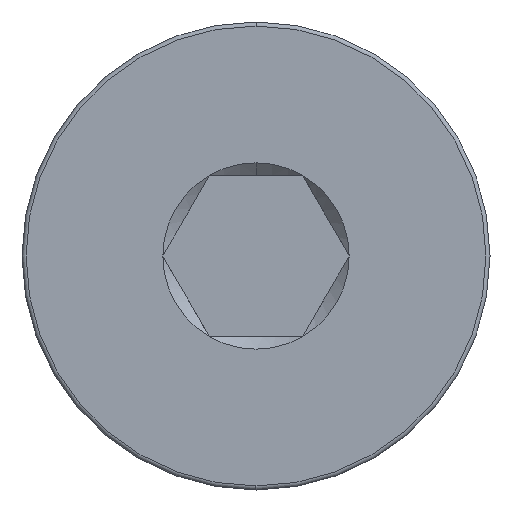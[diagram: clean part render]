
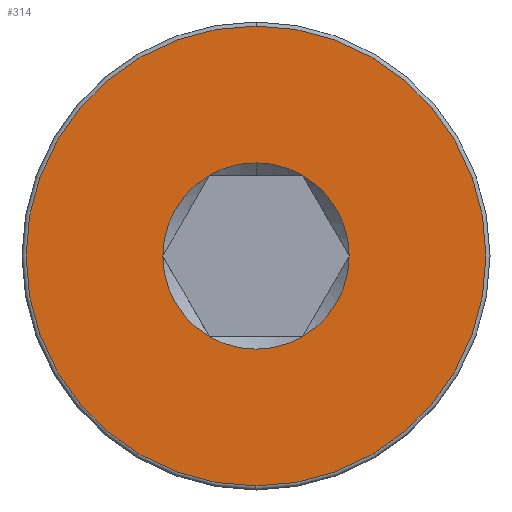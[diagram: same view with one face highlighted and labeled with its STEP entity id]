
A CAD part, left-side view. The second image highlights one B-rep face of the part: STEP entity #314.
In plain terms, the highlighted planar face has unit normal (-1, 0, 0).
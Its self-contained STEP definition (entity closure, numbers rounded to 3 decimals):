
#9 = CARTESIAN_POINT ( 'NONE',  ( 0., 0., 0. ) ) ;
#13 = EDGE_CURVE ( 'NONE', #673, #237, #518, .T. ) ;
#17 = EDGE_CURVE ( 'NONE', #139, #26, #620, .T. ) ;
#26 = VERTEX_POINT ( 'NONE', #575 ) ;
#30 = EDGE_CURVE ( 'NONE', #26, #139, #729, .T. ) ;
#31 = AXIS2_PLACEMENT_3D ( 'NONE', #508, #761, #562 ) ;
#43 = VERTEX_POINT ( 'NONE', #121 ) ;
#68 = CIRCLE ( 'NONE', #160, 1.155 ) ;
#70 = CIRCLE ( 'NONE', #94, 1.155 ) ;
#77 = ORIENTED_EDGE ( 'NONE', *, *, #13, .T. ) ;
#85 = ORIENTED_EDGE ( 'NONE', *, *, #713, .T. ) ;
#94 = AXIS2_PLACEMENT_3D ( 'NONE', #146, #613, #141 ) ;
#113 = AXIS2_PLACEMENT_3D ( 'NONE', #548, #129, #603 ) ;
#119 = VERTEX_POINT ( 'NONE', #471 ) ;
#121 = CARTESIAN_POINT ( 'NONE',  ( 0., 1.155, 0. ) ) ;
#129 = DIRECTION ( 'NONE',  ( 1., 0., 0. ) ) ;
#131 = ORIENTED_EDGE ( 'NONE', *, *, #672, .T. ) ;
#132 = CARTESIAN_POINT ( 'NONE',  ( 0., -1.155, 0. ) ) ;
#139 = VERTEX_POINT ( 'NONE', #706 ) ;
#141 = DIRECTION ( 'NONE',  ( 0., 0., -1. ) ) ;
#146 = CARTESIAN_POINT ( 'NONE',  ( 0., 0., 0. ) ) ;
#160 = AXIS2_PLACEMENT_3D ( 'NONE', #698, #554, #693 ) ;
#166 = ORIENTED_EDGE ( 'NONE', *, *, #347, .T. ) ;
#209 = EDGE_LOOP ( 'NONE', ( #756, #166, #619, #131, #77, #587, #85 ) ) ;
#213 = AXIS2_PLACEMENT_3D ( 'NONE', #9, #254, #667 ) ;
#218 = AXIS2_PLACEMENT_3D ( 'NONE', #629, #338, #222 ) ;
#222 = DIRECTION ( 'NONE',  ( 0., 0., -1. ) ) ;
#225 = VERTEX_POINT ( 'NONE', #375 ) ;
#237 = VERTEX_POINT ( 'NONE', #313 ) ;
#241 = CARTESIAN_POINT ( 'NONE',  ( 0., 0., 1.155 ) ) ;
#250 = AXIS2_PLACEMENT_3D ( 'NONE', #731, #310, #256 ) ;
#254 = DIRECTION ( 'NONE',  ( 1., 0., 0. ) ) ;
#256 = DIRECTION ( 'NONE',  ( 0., 0., -1. ) ) ;
#260 = DIRECTION ( 'NONE',  ( -1., 0., 0. ) ) ;
#262 = CIRCLE ( 'NONE', #113, 1.155 ) ;
#281 = DIRECTION ( 'NONE',  ( 0., 0., 1. ) ) ;
#285 = ORIENTED_EDGE ( 'NONE', *, *, #30, .T. ) ;
#310 = DIRECTION ( 'NONE',  ( 1., 0., 0. ) ) ;
#313 = CARTESIAN_POINT ( 'NONE',  ( 0., -0.577, -1. ) ) ;
#314 = ADVANCED_FACE ( 'NONE', ( #489, #483 ), #728, .T. ) ;
#338 = DIRECTION ( 'NONE',  ( 1., 0., 0. ) ) ;
#347 = EDGE_CURVE ( 'NONE', #119, #512, #68, .T. ) ;
#366 = CIRCLE ( 'NONE', #213, 1.155 ) ;
#375 = CARTESIAN_POINT ( 'NONE',  ( 0., 0.577, -1. ) ) ;
#379 = CARTESIAN_POINT ( 'NONE',  ( 0., 0., 0. ) ) ;
#401 = DIRECTION ( 'NONE',  ( -1., 0., 0. ) ) ;
#407 = DIRECTION ( 'NONE',  ( 0., 0., 1. ) ) ;
#437 = CIRCLE ( 'NONE', #250, 1.155 ) ;
#455 = CARTESIAN_POINT ( 'NONE',  ( 0., 0., 0. ) ) ;
#460 = EDGE_CURVE ( 'NONE', #43, #119, #542, .T. ) ;
#464 = VERTEX_POINT ( 'NONE', #752 ) ;
#471 = CARTESIAN_POINT ( 'NONE',  ( 0., 0.577, 1. ) ) ;
#483 = FACE_BOUND ( 'NONE', #209, .T. ) ;
#489 = FACE_OUTER_BOUND ( 'NONE', #676, .T. ) ;
#508 = CARTESIAN_POINT ( 'NONE',  ( 0., 0., 0. ) ) ;
#512 = VERTEX_POINT ( 'NONE', #241 ) ;
#518 = CIRCLE ( 'NONE', #218, 1.155 ) ;
#542 = CIRCLE ( 'NONE', #31, 1.155 ) ;
#548 = CARTESIAN_POINT ( 'NONE',  ( 0., 0., 0. ) ) ;
#554 = DIRECTION ( 'NONE',  ( 1., 0., 0. ) ) ;
#562 = DIRECTION ( 'NONE',  ( 0., 0., -1. ) ) ;
#575 = CARTESIAN_POINT ( 'NONE',  ( 0., 0., 2.85 ) ) ;
#587 = ORIENTED_EDGE ( 'NONE', *, *, #691, .T. ) ;
#603 = DIRECTION ( 'NONE',  ( 0., 0., -1. ) ) ;
#613 = DIRECTION ( 'NONE',  ( 1., 0., 0. ) ) ;
#619 = ORIENTED_EDGE ( 'NONE', *, *, #779, .T. ) ;
#620 = CIRCLE ( 'NONE', #654, 2.85 ) ;
#624 = ORIENTED_EDGE ( 'NONE', *, *, #17, .T. ) ;
#629 = CARTESIAN_POINT ( 'NONE',  ( 0., 0., 0. ) ) ;
#634 = AXIS2_PLACEMENT_3D ( 'NONE', #379, #260, #281 ) ;
#636 = DIRECTION ( 'NONE',  ( 0., 0., 1. ) ) ;
#654 = AXIS2_PLACEMENT_3D ( 'NONE', #455, #401, #636 ) ;
#667 = DIRECTION ( 'NONE',  ( 0., 0., -1. ) ) ;
#672 = EDGE_CURVE ( 'NONE', #464, #673, #366, .T. ) ;
#673 = VERTEX_POINT ( 'NONE', #132 ) ;
#676 = EDGE_LOOP ( 'NONE', ( #285, #624 ) ) ;
#691 = EDGE_CURVE ( 'NONE', #237, #225, #437, .T. ) ;
#693 = DIRECTION ( 'NONE',  ( 0., 0., -1. ) ) ;
#698 = CARTESIAN_POINT ( 'NONE',  ( 0., 0., 0. ) ) ;
#699 = DIRECTION ( 'NONE',  ( -1., 0., 0. ) ) ;
#706 = CARTESIAN_POINT ( 'NONE',  ( 0., 0., -2.85 ) ) ;
#713 = EDGE_CURVE ( 'NONE', #225, #43, #262, .T. ) ;
#728 = PLANE ( 'NONE',  #634 ) ;
#729 = CIRCLE ( 'NONE', #782, 2.85 ) ;
#731 = CARTESIAN_POINT ( 'NONE',  ( 0., 0., 0. ) ) ;
#752 = CARTESIAN_POINT ( 'NONE',  ( 0., -0.577, 1. ) ) ;
#756 = ORIENTED_EDGE ( 'NONE', *, *, #460, .T. ) ;
#761 = DIRECTION ( 'NONE',  ( 1., 0., 0. ) ) ;
#762 = CARTESIAN_POINT ( 'NONE',  ( 0., 0., 0. ) ) ;
#779 = EDGE_CURVE ( 'NONE', #512, #464, #70, .T. ) ;
#782 = AXIS2_PLACEMENT_3D ( 'NONE', #762, #699, #407 ) ;
